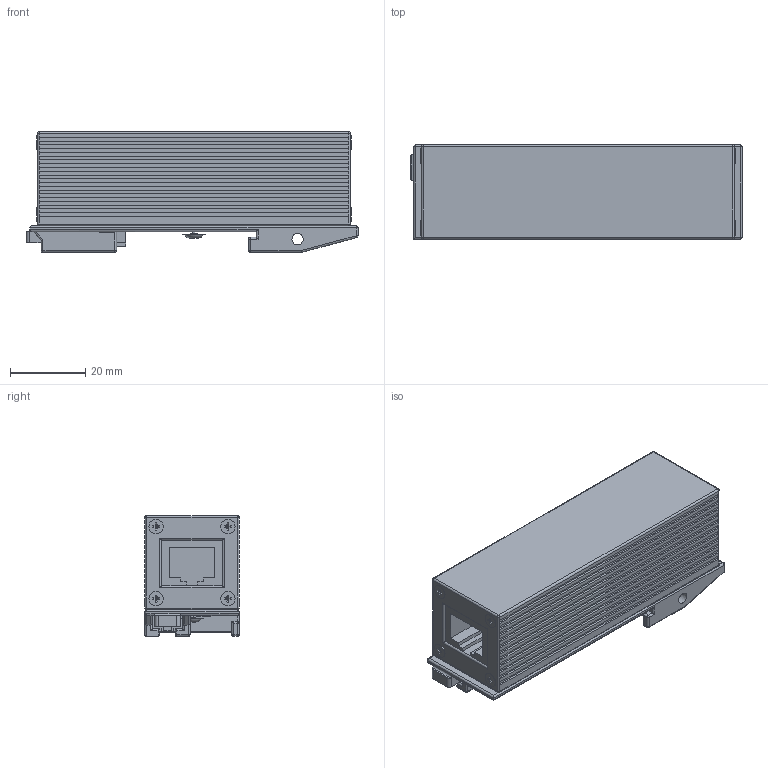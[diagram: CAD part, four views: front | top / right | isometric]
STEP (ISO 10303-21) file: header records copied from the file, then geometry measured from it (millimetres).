
FILE_DESCRIPTION(('TFLEX Exchange Step'),'2;1');
FILE_NAME('X2\0430044004420438043A0443043B\X0\ 201 007.stp', '2022-08-08T09:53:45+03:00',('IgorZavyalov'),('Unknown organisation'),'TFLEX Exchange 2019.2','T-FLEX CAD','Unknown authorisation');
FILE_SCHEMA( ('AUTOMOTIVE_DESIGN { 1 0 10303 214 1 1 1 1 }') );
Length unit declared in the file: millimetre
Products named in the file (5): 3D Узел; 3D Узел:1; 3D Узел:2; 0; артикул 201 007
Assembly tree (4 placements, depth 3):
  артикул 201 007
    0
      3D Узел
      3D Узел:1
      3D Узел:2
Bounding box: 88 x 25 x 32 mm (x, y, z)
Volume: 53197.7 mm3; surface area: 20275 mm2
Topology: 7 solids, 27 shells, 569 faces, 1516 edges, 959 vertices
Faces by surface type: plane 394, cylinder 116, sphere 29, cone 24, torus 6
Full cylindrical faces by diameter (mm): 1.732 x1, 1.8 x4, 2 x3, 2.24 x2, 3 x2, 3.8 x10
Entity records: 17661 total; most frequent: CARTESIAN_POINT 4137, ORIENTED_EDGE 2854, DIRECTION 2431, EDGE_CURVE 1461, VERTEX_POINT 956, VECTOR 821, LINE 821, AXIS2_PLACEMENT_3D 805
